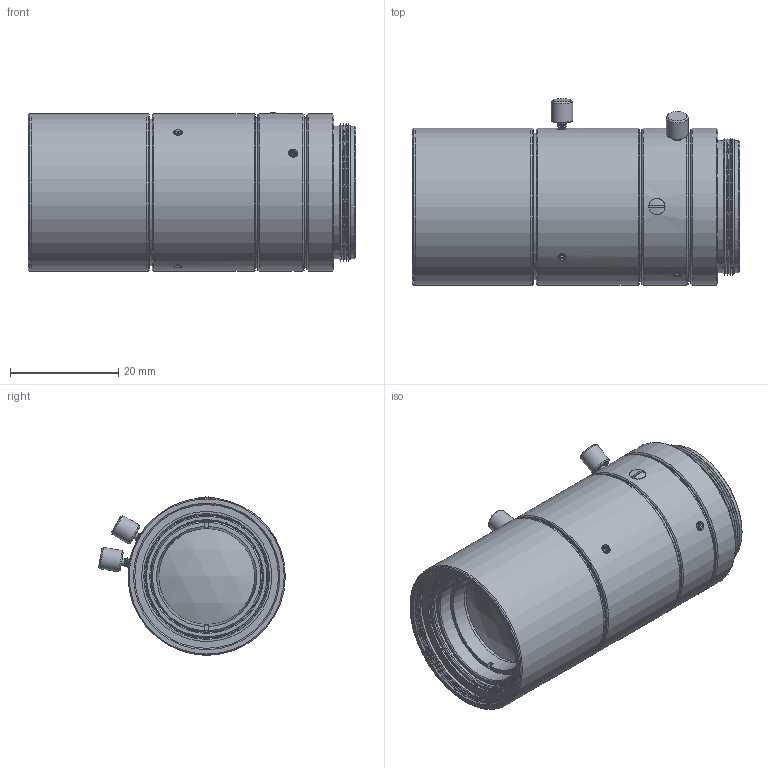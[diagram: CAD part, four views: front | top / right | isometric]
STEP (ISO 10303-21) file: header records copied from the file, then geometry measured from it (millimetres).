
FILE_DESCRIPTION(/* description */ ('Unknown'),/* implementation_level */ '2;1');
FILE_NAME(/* name */ 'M5028-MPW3',/* time_stamp */ '2021-03-21T09:03:29+09:00',/* author */ ('Unknown'),/* organization */ ('Unknown'),/* preprocessor_version */ 'ST-DEVELOPER v16.7',/* originating_system */ 'DEX',/* authorisation */ $);
FILE_SCHEMA (('AUTOMOTIVE_DESIGN {1 0 10303 214 3 1 1}'));
Length unit declared in the file: millimetre
Products named in the file (3): M5028-MPW3 Infinity; M5028-MPW3 Infinity_0; M5028-MPW3 Mechanical Limit_0
Assembly tree (2 placements, depth 2):
  M5028-MPW3 Infinity
    M5028-MPW3 Infinity_0
    M5028-MPW3 Mechanical Limit_0
Bounding box: 60.32 x 34.4 x 29.17 mm (x, y, z)
Volume: 41957.8 mm3; surface area: 64618.2 mm2
Topology: 40 solids, 40 shells, 1394 faces, 2862 edges, 1664 vertices
Faces by surface type: cone 906, plane 270, cylinder 206, sphere 12
Full cylindrical faces by diameter (mm): 1 x2, 1.3 x4, 1.5 x8, 2 x12, 3 x4, 4 x4, 9.6 x2, 9.9 x2, 10.5 x4, 11.5 x4, 11.6 x2, 12 x2, 13 x2, 13.5 x2, 14 x2, 14.5 x4, 16.5 x2, 17 x2, 17.5 x2, 17.7 x2, 19 x12, 19.5 x2, 20 x2, 20.5 x6, 20.6 x2, 21 x2, 21.5 x2, 21.8 x4, 22.5 x2, 22.6 x2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
Entity records: 31831 total; most frequent: DIRECTION 5818, CARTESIAN_POINT 5727, ORIENTED_EDGE 3716, AXIS2_PLACEMENT_3D 2759, EDGE_LOOP 2546, FACE_BOUND 2546, EDGE_CURVE 1858, VERTEX_POINT 1616
